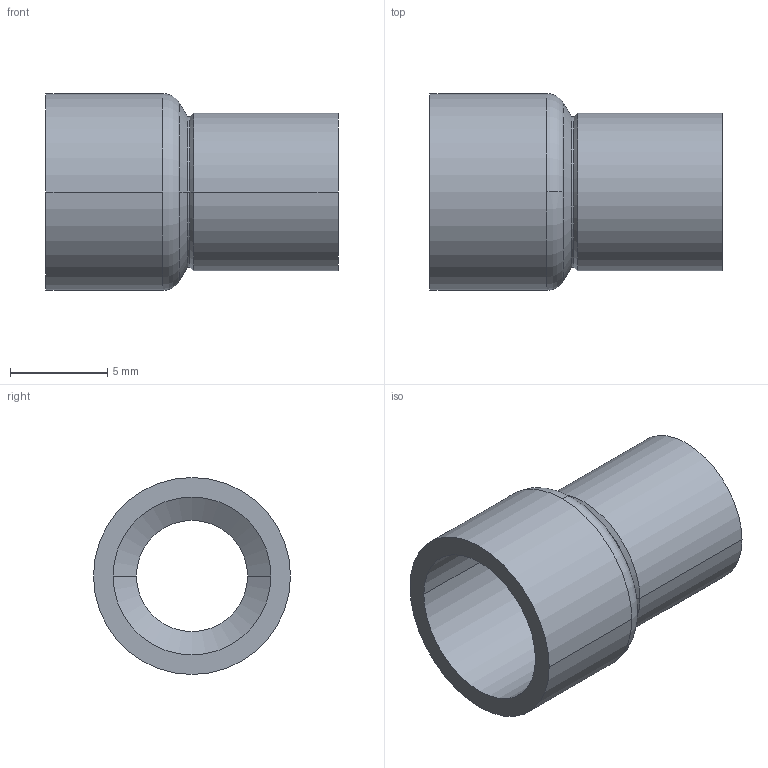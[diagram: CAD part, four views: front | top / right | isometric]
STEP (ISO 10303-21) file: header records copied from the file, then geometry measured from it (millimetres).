
FILE_DESCRIPTION((''),'2;1');
FILE_NAME('G:\Technics\CAD\Bauteile\Serie 15240\1524086.stp','2005-10-21T12:50:58',('boden'),(''),'Autodesk Inventor 8','Autodesk Inventor 8','');
FILE_SCHEMA(('AUTOMOTIVE_DESIGN { 1 0 10303 214 1 1 1 1 }'));
Length unit declared in the file: millimetre
Products named in the file (1): 1524086
Bounding box: 15 x 10.11 x 10.11 mm (x, y, z)
Volume: 392.8 mm3; surface area: 836.2 mm2
Topology: 1 solids, 1 shells, 24 faces, 52 edges, 30 vertices
Faces by surface type: cylinder 12, cone 8, torus 2, plane 2
Entity records: 683 total; most frequent: DIRECTION 134, CARTESIAN_POINT 107, ORIENTED_EDGE 104, AXIS2_PLACEMENT_3D 57, EDGE_CURVE 52, CIRCLE 32, VERTEX_POINT 30, EDGE_LOOP 26
